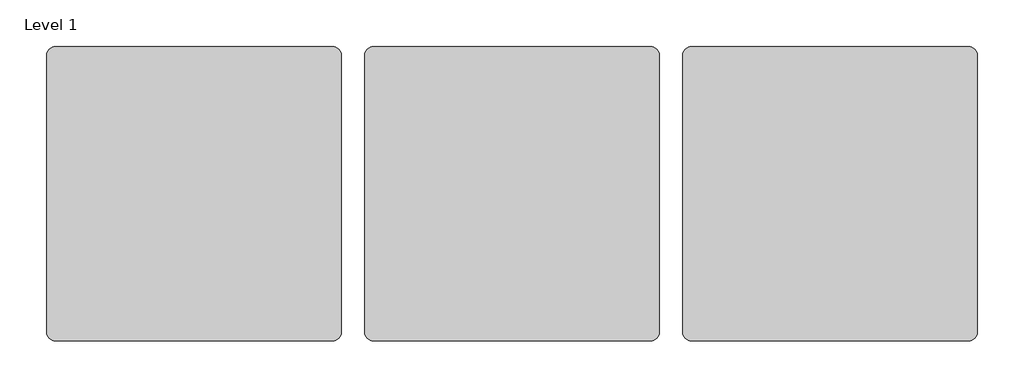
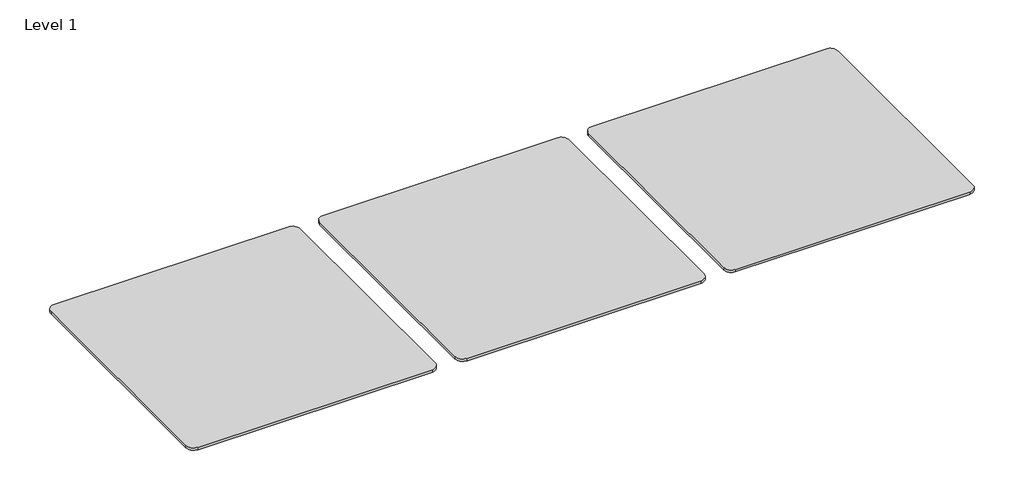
# One storey: 3 proxies.
"""IFC4 building model written with IfcOpenShell, lengths in millimetres."""

from ifc_helpers import new_model, si_unit, origin, place, context, project, spatial, transform, mapped, element, save
from components import materialsample_type_1_aebe469f

model = new_model("IFC4")

# Units and contexts
model_context = context("Model", 3, world=origin())
ifc_project = project(units=[si_unit("LENGTHUNIT", "METRE", prefix="MILLI")], contexts=[model_context])

# Site, building, storey
site = spatial("IfcSite", under=ifc_project)
building = spatial("IfcBuilding", under=site)
storey = spatial("IfcBuildingStorey", under=building, Name="Level 1", Elevation=0.0)

# Proxies
placement = place(None, origin())
materialsample_type_1_shape = materialsample_type_1_aebe469f(model_context)
element("IfcBuildingElementProxy", 1, Name="MaterialSample : Type 1", ObjectType="MaterialSample : Type 1", at=placement, inside=storey, context=model_context, shape_type="MappedRepresentation", body=[
    mapped(materialsample_type_1_shape, transform((2882.2201039, -13430.4000012, 0.0), x_axis=(1.0, 0.0, 0.0), y_axis=(0.0, 1.0, 0.0), z_axis=(0.0, 0.0, 1.0))),
])
element("IfcBuildingElementProxy", 2, Name="MaterialSample : Type 1", ObjectType="MaterialSample : Type 1", at=placement, inside=storey, context=model_context, shape_type="MappedRepresentation", body=[
    mapped(materialsample_type_1_shape, transform((253.0935298, -13430.4000012, 0.0), x_axis=(1.0, 0.0, 0.0), y_axis=(0.0, 1.0, 0.0), z_axis=(0.0, 0.0, 1.0))),
])
element("IfcBuildingElementProxy", 3, Name="MaterialSample : Type 1", ObjectType="MaterialSample : Type 1", at=placement, inside=storey, context=model_context, shape_type="MappedRepresentation", body=[
    mapped(materialsample_type_1_shape, transform((5511.346678, -13430.4000012, 0.0), x_axis=(1.0, 0.0, 0.0), y_axis=(0.0, 1.0, 0.0), z_axis=(0.0, 0.0, 1.0))),
])

save(model, "model.ifc")
